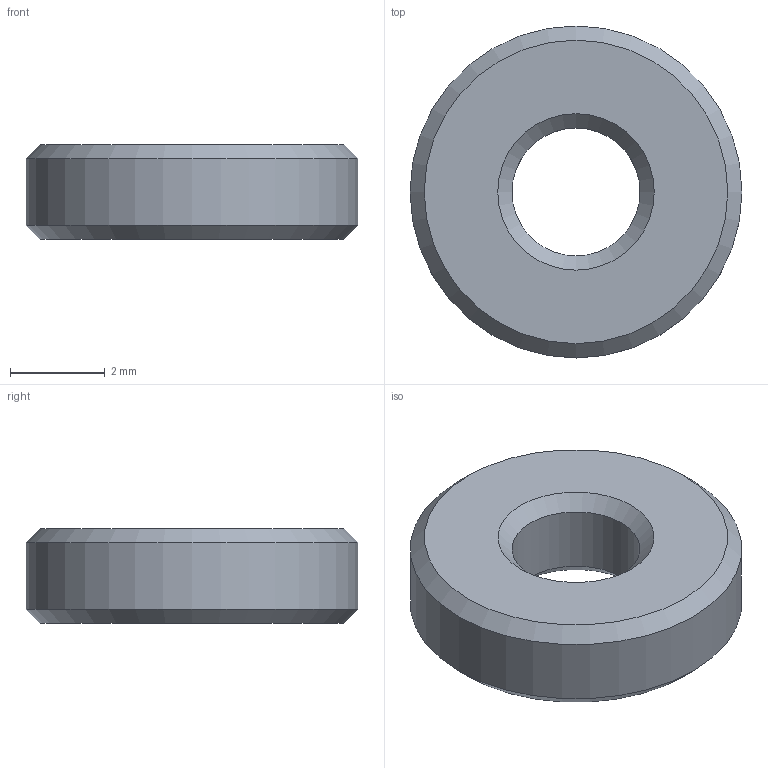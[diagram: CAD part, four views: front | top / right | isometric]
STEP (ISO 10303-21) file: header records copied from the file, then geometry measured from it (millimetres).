
FILE_DESCRIPTION(/* description */ (''),/* implementation_level */ '2;1');
FILE_NAME(/* name */ 'spacer_2mm.step',/* time_stamp */ '2024-03-18T15:46:25-05:00',/* author */ (''),/* organization */ (''),/* preprocessor_version */ 'ST-DEVELOPER v20',/* originating_system */ 'Autodesk Translation Framework v12.20.1.177',/* authorisation */ '');
FILE_SCHEMA (('AUTOMOTIVE_DESIGN { 1 0 10303 214 3 1 1 }'));
Length unit declared in the file: millimetre
Products named in the file (1): DIN Rail Bracket_BTT Pi 1.2
Bounding box: 7 x 7 x 2 mm (x, y, z)
Volume: 62.8 mm3; surface area: 115.8 mm2
Topology: 1 solids, 1 shells, 8 faces, 14 edges, 8 vertices
Faces by surface type: cone 4, plane 2, cylinder 2
Full cylindrical faces by diameter (mm): 2.7 x1, 7 x1
Entity records: 238 total; most frequent: DIRECTION 40, CARTESIAN_POINT 31, ORIENTED_EDGE 28, AXIS2_PLACEMENT_3D 17, EDGE_CURVE 14, EDGE_LOOP 10, FACE_OUTER_BOUND 8, CIRCLE 8
